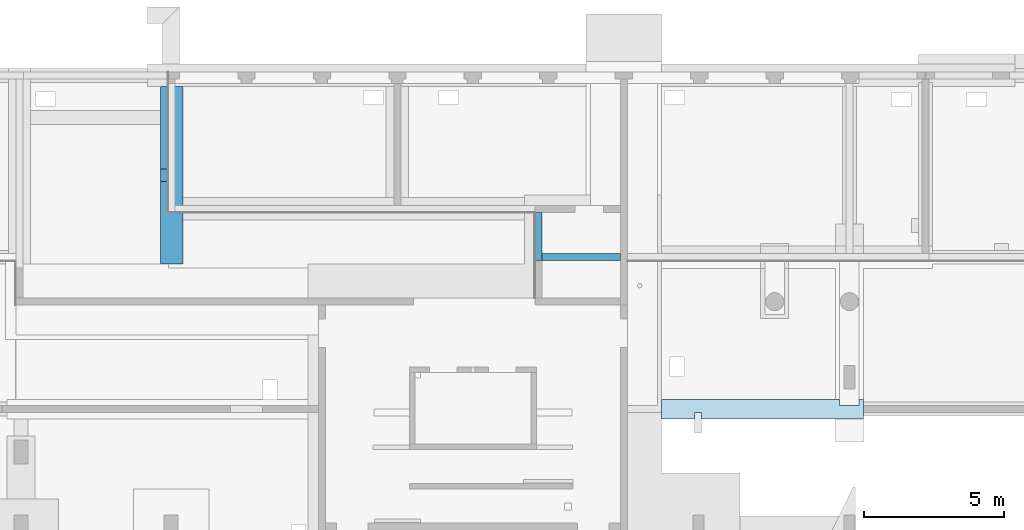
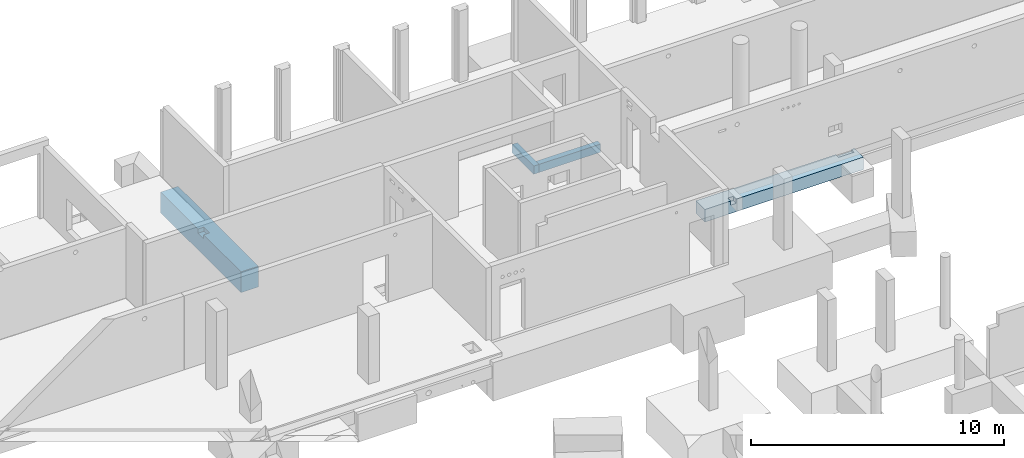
# One storey, part 57 of 60: 4 footings.
"""IFC2X3 building model written with IfcOpenShell, lengths in millimetres."""

from ifc_helpers import new_model, entity, si_unit, converted_unit, derived_unit, direction, frame, origin, place, context, subcontext, project, spatial, faceted_brep, material, element, save


model = new_model("IFC2X3")

# Units and contexts
model_context = context("Model", 3, precision=0.01, world=origin(), true_north=direction((6.12303176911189e-17, 1.0)))
body_context = subcontext(model_context, "Body", "Model", "MODEL_VIEW")
ifc_project = project(units=[si_unit("LENGTHUNIT", "METRE", prefix="MILLI"), si_unit("AREAUNIT", "SQUARE_METRE"), si_unit("VOLUMEUNIT", "CUBIC_METRE"), converted_unit("PLANEANGLEUNIT", "DEGREE", entity("IfcRatioMeasure", 0.0174532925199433), si_unit("PLANEANGLEUNIT", "RADIAN"), dimensions=[0, 0, 0, 0, 0, 0, 0]), si_unit("MASSUNIT", "GRAM", prefix="KILO"), derived_unit("MASSDENSITYUNIT", [(si_unit("MASSUNIT", "GRAM", prefix="KILO"), 1), (si_unit("LENGTHUNIT", "METRE"), -3)]), si_unit("TIMEUNIT", "SECOND"), si_unit("FREQUENCYUNIT", "HERTZ"), si_unit("THERMODYNAMICTEMPERATUREUNIT", "DEGREE_CELSIUS"), derived_unit("THERMALTRANSMITTANCEUNIT", [(si_unit("MASSUNIT", "GRAM", prefix="KILO"), 1), (si_unit("THERMODYNAMICTEMPERATUREUNIT", "KELVIN"), -1), (si_unit("TIMEUNIT", "SECOND"), -3)]), derived_unit("VOLUMETRICFLOWRATEUNIT", [(si_unit("LENGTHUNIT", "METRE"), 3), (si_unit("TIMEUNIT", "SECOND"), -1)]), si_unit("ELECTRICCURRENTUNIT", "AMPERE"), si_unit("ELECTRICVOLTAGEUNIT", "VOLT"), si_unit("POWERUNIT", "WATT"), si_unit("FORCEUNIT", "NEWTON", prefix="KILO"), si_unit("ILLUMINANCEUNIT", "LUX"), si_unit("LUMINOUSFLUXUNIT", "LUMEN"), si_unit("LUMINOUSINTENSITYUNIT", "CANDELA"), derived_unit("USERDEFINED", [(si_unit("MASSUNIT", "GRAM", prefix="KILO"), -1), (si_unit("LENGTHUNIT", "METRE"), -2), (si_unit("TIMEUNIT", "SECOND"), 3), (si_unit("LUMINOUSFLUXUNIT", "LUMEN"), 1)]), derived_unit("LINEARVELOCITYUNIT", [(si_unit("LENGTHUNIT", "METRE"), 1), (si_unit("TIMEUNIT", "SECOND"), -1)]), si_unit("PRESSUREUNIT", "PASCAL"), derived_unit("USERDEFINED", [(si_unit("LENGTHUNIT", "METRE"), -2), (si_unit("MASSUNIT", "GRAM", prefix="KILO"), 1), (si_unit("TIMEUNIT", "SECOND"), -2)])], contexts=[model_context])

# Site, building, storey
site_placement = place(None, origin())
site = spatial("IfcSite", under=ifc_project, at=site_placement, Name="Default", CompositionType="ELEMENT")
building_placement = place(site_placement, origin())
building = spatial("IfcBuilding", under=site, at=building_placement, Name="niet gebruiken", CompositionType="ELEMENT")
storey_placement = place(building_placement, origin())
storey = spatial("IfcBuildingStorey", under=building, at=storey_placement, Name="00 begane grond", CompositionType="ELEMENT", Elevation=0.0)

# Footings
ifc_material = material(Name="NLRS_f2_beton ihwg")
footing_1_placement = place(storey_placement, frame((49950.0, 40836.0, -1002.0)))
element("IfcFooting", 1, at=footing_1_placement, inside=storey, material=ifc_material, Name="NLRS_16.12_SF_WPB_funderingsbalk ihwg recht_gen:700x600", ObjectType="NLRS_16.12_SF_WPB_funderingsbalk ihwg recht_gen:700x600", PredefinedType="FOOTING_BEAM", context=body_context, shape_type="Brep", body=[
    faceted_brep([(0.0, 700.0, 600.0), (0.0, 700.0, 0.0), (0.0, 225.0, 0.0), (0.0, 0.0, 0.0), (0.0, 0.0, 600.0), (0.0, 225.0, 600.0), (0.0, 495.0, 600.0), (6225.0, 700.0, 600.0), (6375.0, 700.0, 600.0), (6375.0, 700.0, 510.0), (7075.0, 700.0, 510.0), (7075.0, 700.0, 600.0), (7225.0, 700.0, 600.0), (7225.0, 700.0, 510.0), (7225.0, 700.0, 0.0), (6225.0, 700.0, 0.0), (7225.0, 600.0, 0.0), (7225.0, 100.0, 0.0), (7225.0, 0.0, 0.0), (6225.0, 0.0, 0.0), (7225.0, 0.0, 510.0), (7225.0, 0.0, 600.0), (6225.0, 0.0, 600.0), (1425.0, 0.0, 600.0), (1425.0, 0.0, 402.0), (1175.0, 0.0, 402.0), (1175.0, 0.0, 600.0), (1175.0, 225.0, 600.0), (1425.0, 225.0, 600.0), (7225.0, 100.0, 600.0), (7225.0, 600.0, 600.0), (7075.0, 495.0, 600.0), (7075.0, 475.0, 600.0), (6375.0, 475.0, 600.0), (6375.0, 495.0, 600.0), (6375.0, 475.0, 510.0), (7075.0, 475.0, 510.0), (1425.0, 225.0, 402.0), (1175.0, 225.0, 402.0)], [[[0, 1, 2, 3, 4, 5, 6]], [[1, 0, 7, 8, 9, 10, 11, 12, 13, 14, 15]], [[1, 15, 14, 16, 17, 18, 19, 3, 2]], [[4, 3, 19, 18, 20, 21, 22, 23, 24, 25, 26]], [[5, 4, 26, 27, 28, 23, 22, 21, 29, 30, 12, 11, 31, 32, 33, 34, 8, 7, 0, 6]], [[35, 36, 10, 9]], [[10, 36, 32, 31, 11]], [[36, 35, 33, 32]], [[35, 9, 8, 34, 33]], [[12, 30, 29, 21, 20, 18, 17, 16, 14, 13]], [[28, 37, 24, 23]], [[25, 38, 27, 26]], [[38, 37, 28, 27]], [[37, 38, 25, 24]]]),
])
footing_2_placement = place(storey_placement, frame((32025.0, 46381.0, -1492.0)))
element("IfcFooting", 2, at=footing_2_placement, inside=storey, material=ifc_material, Name="NLRS_16.12_SF_WPB_funderingsbalk ihwg recht_gen:800x1000", ObjectType="NLRS_16.12_SF_WPB_funderingsbalk ihwg recht_gen:800x1000", PredefinedType="FOOTING_BEAM", context=body_context, shape_type="Brep", body=[
    faceted_brep([(800.0, 6350.0, 1000.0), (0.0, 6350.0, 1000.0), (0.0, 3399.73534794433, 1000.0), (275.0, 3399.73534794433, 1000.0), (275.0, 2949.73534794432, 1000.0), (0.0, 2949.73534794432, 1000.0), (0.0, 0.0, 1000.0), (800.0, 0.0, 1000.0), (800.0, 1570.0, 1000.0), (800.0, 2370.0, 1000.0), (800.0, 6350.0, 0.0), (0.0, 6350.0, 0.0), (0.0, 5494.47072251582, 0.0), (0.0, 4994.47072251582, 0.0), (0.0, 0.0, 0.0), (0.0, 2949.73534794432, 800.0), (0.0, 3399.73534794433, 800.0), (800.0, 2370.0, 0.0), (800.0, 1570.0, 0.0), (800.0, 0.0, 0.0), (275.0, 3399.73534794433, 800.0), (275.0, 2949.73534794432, 800.0)], [[[0, 1, 2, 3, 4, 5, 6, 7, 8, 9]], [[1, 0, 10, 11]], [[1, 11, 12, 13, 14, 6, 5, 15, 16, 2]], [[11, 10, 17, 18, 19, 14, 13, 12]], [[10, 0, 9, 8, 7, 19, 18, 17]], [[7, 6, 14, 19]], [[20, 16, 15, 21]], [[16, 20, 3, 2]], [[21, 15, 5, 4]], [[20, 21, 4, 3]]]),
])
footing_3_placement = place(storey_placement, frame((45675.0, 46496.0, -550.0)))
element("IfcFooting", 3, at=footing_3_placement, inside=storey, material=ifc_material, Name="NLRS_16.12_SF_WPB_opstort ihwg recht_gen:250x390", ObjectType="NLRS_16.12_SF_WPB_opstort ihwg recht_gen:250x390", PredefinedType="FOOTING_BEAM", context=body_context, shape_type="Brep", body=[
    faceted_brep([(2800.0, 250.0, 390.0), (2800.0, 0.0, 390.0), (2800.0, 0.0, 0.0), (2800.0, 250.0, 0.0), (0.0, 250.0, 390.0), (0.0, 250.0, 0.0), (0.0, 0.0, 0.0), (0.0, 0.0, 390.0)], [[[0, 1, 2, 3]], [[4, 5, 6, 7]], [[3, 5, 4, 0]], [[2, 6, 5, 3]], [[1, 7, 6, 2]], [[0, 4, 7, 1]]]),
])
footing_4_placement = place(storey_placement, frame((45425.0, 46496.0, -550.0)))
element("IfcFooting", 4, at=footing_4_placement, inside=storey, material=ifc_material, Name="NLRS_16.12_SF_WPB_opstort ihwg recht_gen:250x390", ObjectType="NLRS_16.12_SF_WPB_opstort ihwg recht_gen:250x390", PredefinedType="FOOTING_BEAM", context=body_context, shape_type="Brep", body=[
    faceted_brep([(250.0, 1730.0, 390.0), (250.0, 1730.0, 0.0), (0.0, 1730.0, 0.0), (0.0, 1730.0, 390.0), (250.0, 0.0, 390.0), (0.0, 0.0, 390.0), (0.0, 0.0, 0.0), (250.0, 0.0, 0.0)], [[[0, 1, 2, 3]], [[4, 5, 6, 7]], [[1, 0, 4, 7]], [[2, 1, 7, 6]], [[3, 2, 6, 5]], [[0, 3, 5, 4]]]),
])

save(model, "model.ifc")
